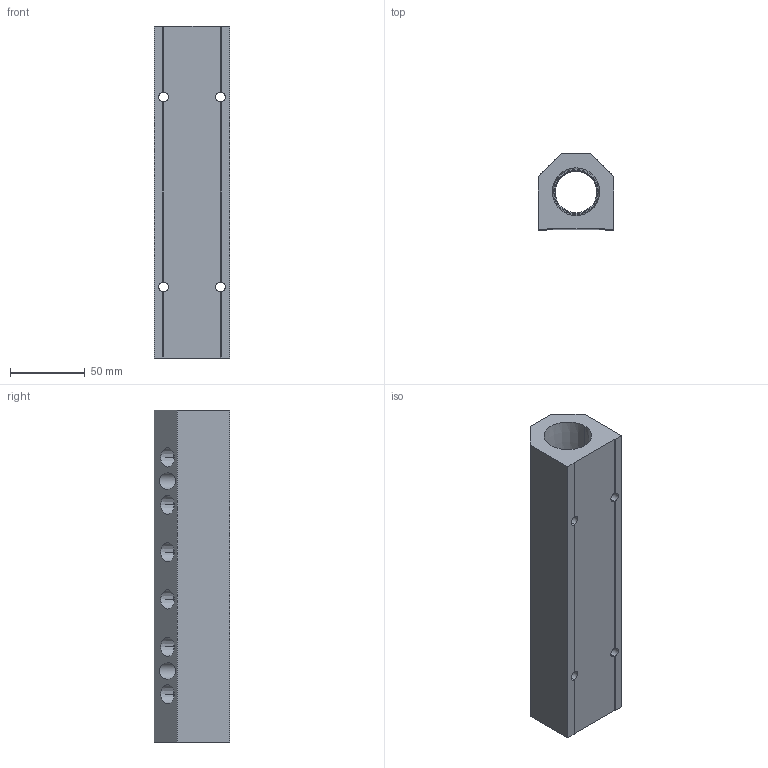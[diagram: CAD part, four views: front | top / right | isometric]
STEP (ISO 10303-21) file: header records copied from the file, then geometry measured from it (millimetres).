
FILE_DESCRIPTION (( 'STEP AP214' ), '1' );
FILE_NAME ('ALM6BCD-N4N16-222R.STEP', '2023-11-02T06:50:34', ( '' ), ( '' ), 'SwSTEP 2.0', 'SolidWorks 2020', '' );
FILE_SCHEMA (( 'AUTOMOTIVE_DESIGN' ));
Length unit declared in the file: millimetre
Products named in the file (1): ALM6BCD-N4N16-222R
Bounding box: 50.8 x 50.8 x 222 mm (x, y, z)
Volume: 338773.9 mm3; surface area: 71828.9 mm2
Topology: 1 solids, 1 shells, 346 faces, 914 edges, 604 vertices
Faces by surface type: plane 213, bspline 67, cone 44, cylinder 22
Entity records: 19659 total; most frequent: CARTESIAN_POINT 8278, ORIENTED_EDGE 1828, DIRECTION 1368, EDGE_CURVE 914, VECTOR 648, LINE 648, VERTEX_POINT 604, EDGE_LOOP 426
